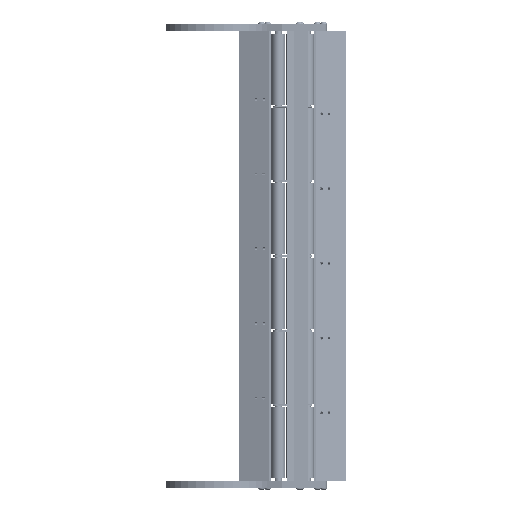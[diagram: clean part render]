
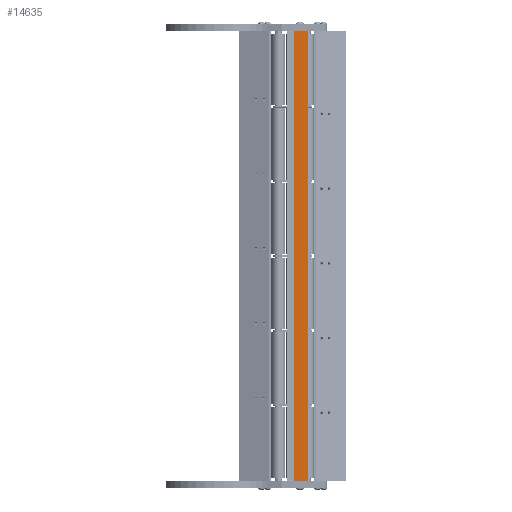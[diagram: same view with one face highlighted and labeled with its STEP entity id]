
A CAD part, front view. The second image highlights one B-rep face of the part: STEP entity #14635.
In plain terms, the highlighted planar face has unit normal (0.768, -0.641, 0) as drawn and (0, 1, 0) by its records, which use the part's own axes.
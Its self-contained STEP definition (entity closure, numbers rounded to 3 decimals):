
#231 = LINE ( 'NONE', #5910, #9759 ) ;
#725 = EDGE_CURVE ( 'NONE', #17676, #13337, #231, .T. ) ;
#1022 = EDGE_CURVE ( 'NONE', #16925, #17676, #15581, .T. ) ;
#1229 = CARTESIAN_POINT ( 'NONE',  ( 0., 13.9, 0. ) ) ;
#1254 = PLANE ( 'NONE',  #13702 ) ;
#1861 = DIRECTION ( 'NONE',  ( -1., 0., 0. ) ) ;
#2394 = FACE_OUTER_BOUND ( 'NONE', #7407, .T. ) ;
#3983 = ORIENTED_EDGE ( 'NONE', *, *, #1022, .F. ) ;
#4815 = ORIENTED_EDGE ( 'NONE', *, *, #10536, .T. ) ;
#5176 = VERTEX_POINT ( 'NONE', #13311 ) ;
#5899 = CARTESIAN_POINT ( 'NONE',  ( 25., 13.9, 494. ) ) ;
#5910 = CARTESIAN_POINT ( 'NONE',  ( 0., 13.9, 494. ) ) ;
#6738 = DIRECTION ( 'NONE',  ( 0., -1., 0. ) ) ;
#7407 = EDGE_LOOP ( 'NONE', ( #4815, #8280, #3983, #8919 ) ) ;
#7774 = VECTOR ( 'NONE', #1861, 1000. ) ;
#8245 = CARTESIAN_POINT ( 'NONE',  ( 25., 13.9, 494. ) ) ;
#8280 = ORIENTED_EDGE ( 'NONE', *, *, #725, .F. ) ;
#8919 = ORIENTED_EDGE ( 'NONE', *, *, #12852, .T. ) ;
#9759 = VECTOR ( 'NONE', #14557, 1000. ) ;
#10536 = EDGE_CURVE ( 'NONE', #5176, #13337, #15989, .T. ) ;
#12379 = LINE ( 'NONE', #5899, #13516 ) ;
#12852 = EDGE_CURVE ( 'NONE', #16925, #5176, #12379, .T. ) ;
#12950 = CARTESIAN_POINT ( 'NONE',  ( 25., 13.9, 494. ) ) ;
#13311 = CARTESIAN_POINT ( 'NONE',  ( 25., 13.9, 0. ) ) ;
#13337 = VERTEX_POINT ( 'NONE', #1229 ) ;
#13516 = VECTOR ( 'NONE', #15415, 1000. ) ;
#13702 = AXIS2_PLACEMENT_3D ( 'NONE', #8245, #6738, #15391 ) ;
#14176 = DIRECTION ( 'NONE',  ( -1., 0., 0. ) ) ;
#14557 = DIRECTION ( 'NONE',  ( 0., 0., -1. ) ) ;
#14635 = ADVANCED_FACE ( 'NONE', ( #2394 ), #1254, .F. ) ;
#15391 = DIRECTION ( 'NONE',  ( 1., 0., 0. ) ) ;
#15415 = DIRECTION ( 'NONE',  ( 0., 0., -1. ) ) ;
#15581 = LINE ( 'NONE', #16281, #18170 ) ;
#15989 = LINE ( 'NONE', #16358, #7774 ) ;
#16281 = CARTESIAN_POINT ( 'NONE',  ( 25., 13.9, 494. ) ) ;
#16358 = CARTESIAN_POINT ( 'NONE',  ( 25., 13.9, 0. ) ) ;
#16584 = CARTESIAN_POINT ( 'NONE',  ( 0., 13.9, 494. ) ) ;
#16925 = VERTEX_POINT ( 'NONE', #12950 ) ;
#17676 = VERTEX_POINT ( 'NONE', #16584 ) ;
#18170 = VECTOR ( 'NONE', #14176, 1000. ) ;
